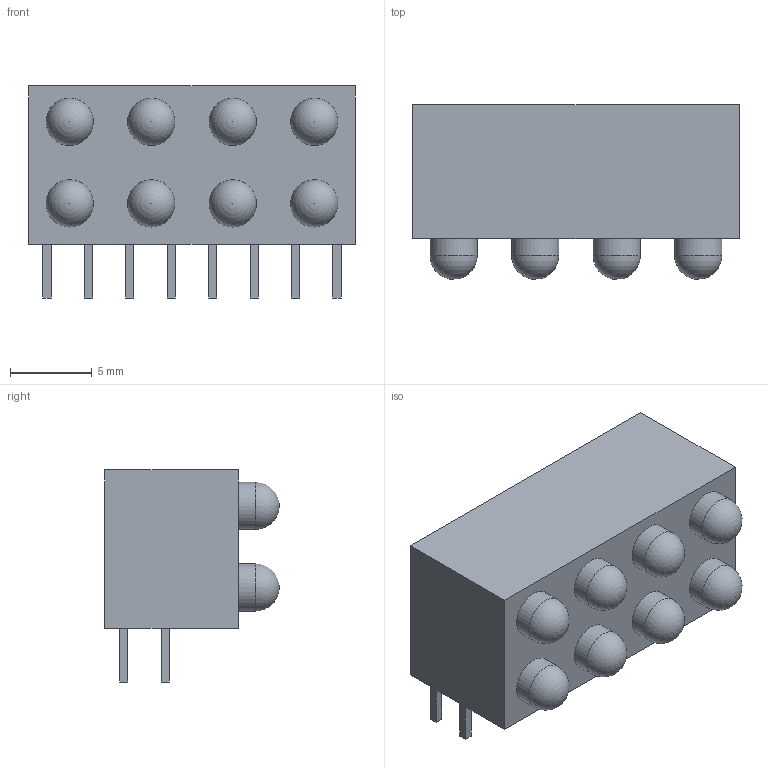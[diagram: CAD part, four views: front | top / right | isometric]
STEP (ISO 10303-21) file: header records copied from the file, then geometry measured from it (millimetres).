
FILE_DESCRIPTION(/* description */ ('STEP AP242','CAx-IF Rec.Pracs.---Representation and Presentation of Product Manufacturing Information (PMI)---4.0---2014-10-13','CAx-IF Rec.Pracs.---3D Tessellated Geometry---0.4---2014-09-14','2;1'),/* implementation_level */ '2;1');
FILE_NAME(/* name */ '63237731039fe424ce131de5',/* time_stamp */ '2022-09-15T19:04:21+00:00',/* author */ (''),/* organization */ (''),/* preprocessor_version */ 'ST-DEVELOPER v18.102',/* originating_system */ ' ',/* authorisation */ ' ');
FILE_SCHEMA (('AP242_MANAGED_MODEL_BASED_3D_ENGINEERING_MIM_LF { 1 0 10303 442 1 1 4 }'));
Length unit declared in the file: metre
Products named in the file (26): QBL7XX80D-MP8B2; LENS 9-10; PIN13; PIN11; BODY; PIN3; LENS 3-4; LENS 1-2; PIN12; PIN8; PIN16; PIN9; LENS 15-16; PIN5; PIN4; PIN2; LENS 11-12; PIN6; LENS 13-14; LENS 5-6; PIN1; PIN15; LENS 7-8; PIN14; PIN10; PIN7
Assembly tree (25 placements, depth 2):
  QBL7XX80D-MP8B2
    LENS 9-10
    PIN13
    PIN11
    BODY
    PIN3
    LENS 3-4
    LENS 1-2
    PIN12
    PIN8
    PIN16
    PIN9
    LENS 15-16
    PIN5
    PIN4
    PIN2
    LENS 11-12
    PIN6
    LENS 13-14
    LENS 5-6
    PIN1
    PIN15
    LENS 7-8
    PIN14
    PIN10
    PIN7
Bounding box: 20 x 10.7 x 13 mm (x, y, z)
Volume: 1710.6 mm3; surface area: 1223.8 mm2
Topology: 25 solids, 25 shells, 183 faces, 405 edges, 270 vertices
Faces by surface type: plane 138, bspline 29, sphere 8, cylinder 8
Full cylindrical faces by diameter (mm): 2.9 x8
Entity records: 5518 total; most frequent: CARTESIAN_POINT 1167, ORIENTED_EDGE 746, DIRECTION 687, EDGE_CURVE 373, LINE 295, VECTOR 295, VERTEX_POINT 254, EDGE_LOOP 197
